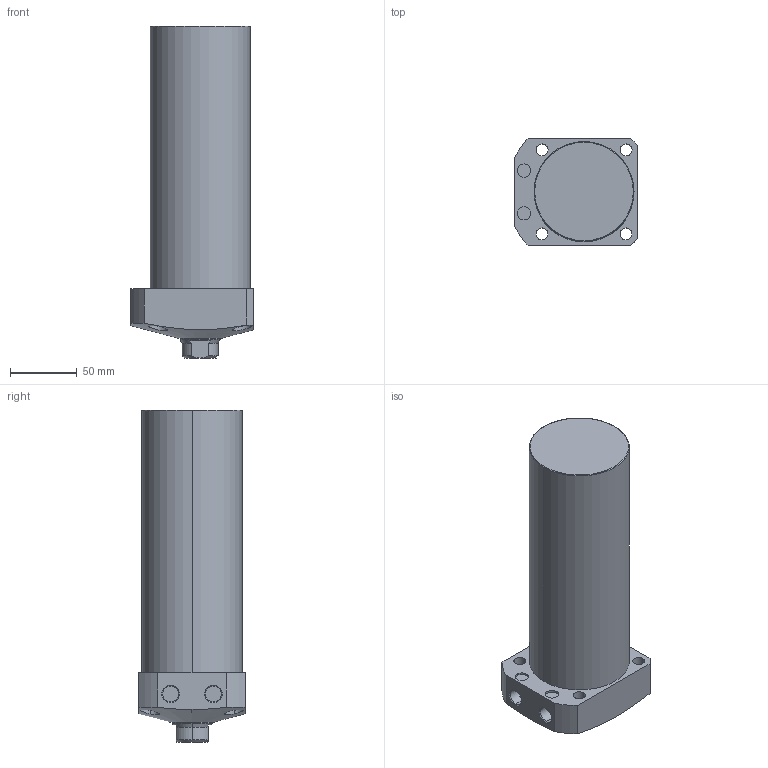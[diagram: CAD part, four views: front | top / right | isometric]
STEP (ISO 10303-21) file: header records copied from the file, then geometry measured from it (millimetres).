
FILE_DESCRIPTION (( 'STEP AP203' ), '1' );
FILE_NAME ('CLL-075CA-160.STEP', '2019-12-23T08:56:54', ( '' ), ( '' ), 'SwSTEP 2.0', 'SolidWorks 2015', '' );
FILE_SCHEMA (( 'CONFIG_CONTROL_DESIGN' ));
Length unit declared in the file: millimetre
Products named in the file (1): CLL-075CA-160
Bounding box: 92 x 80 x 249 mm (x, y, z)
Volume: 1089377.3 mm3; surface area: 78751.4 mm2
Topology: 1 solids, 1 shells, 74 faces, 171 edges, 108 vertices
Faces by surface type: cylinder 35, plane 22, cone 15, torus 2
Entity records: 2610 total; most frequent: CARTESIAN_POINT 815, DIRECTION 376, ORIENTED_EDGE 338, EDGE_CURVE 169, AXIS2_PLACEMENT_3D 156, VERTEX_POINT 108, EDGE_LOOP 93, CIRCLE 81
